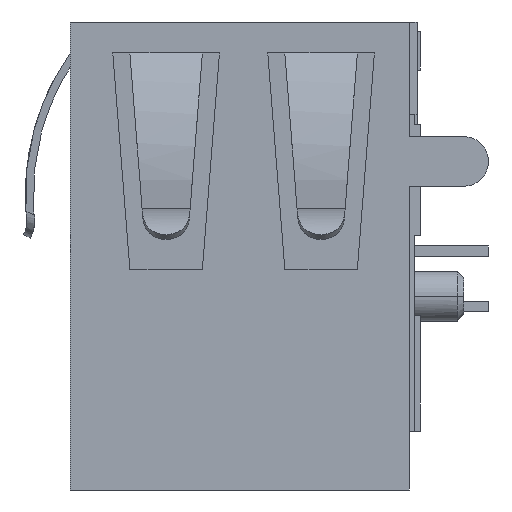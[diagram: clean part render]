
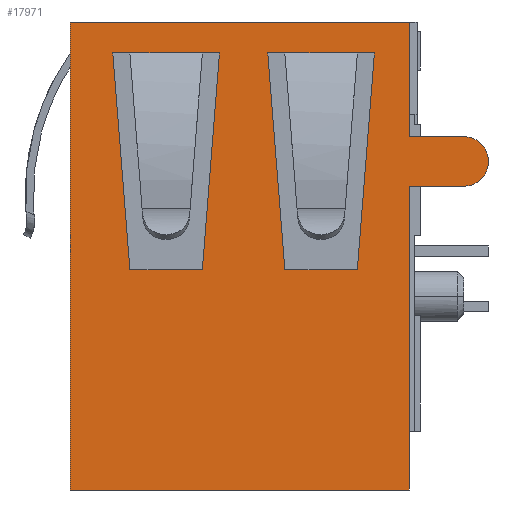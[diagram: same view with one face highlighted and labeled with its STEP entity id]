
A CAD part, left-side view. The second image highlights one B-rep face of the part: STEP entity #17971.
In plain terms, the highlighted planar face has unit normal (-1, 0, 0).
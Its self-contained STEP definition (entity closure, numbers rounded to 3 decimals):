
#13=DIRECTION('',(0.,1.,0.));
#14=VECTOR('',#13,10.95);
#15=CARTESIAN_POINT('',(-0.35,1.55,-0.3));
#16=LINE('',#15,#14);
#1487=DIRECTION('',(0.,0.,1.));
#1488=VECTOR('',#1487,3.7);
#1489=CARTESIAN_POINT('',(-0.35,1.55,-4.));
#1490=LINE('',#1489,#1488);
#1495=DIRECTION('',(0.,1.,0.));
#1496=VECTOR('',#1495,1.75);
#1497=CARTESIAN_POINT('',(-0.35,-0.2,-4.));
#1498=LINE('',#1497,#1496);
#1592=DIRECTION('',(0.,0.,1.));
#1593=VECTOR('',#1592,9.8);
#1594=CARTESIAN_POINT('',(-0.35,1.55,-15.4));
#1595=LINE('',#1594,#1593);
#1596=DIRECTION('',(0.,-1.,0.));
#1597=VECTOR('',#1596,1.75);
#1598=CARTESIAN_POINT('',(-0.35,1.55,-5.6));
#1599=LINE('',#1598,#1597);
#1600=CARTESIAN_POINT('',(-0.35,-0.2,-4.8));
#1601=DIRECTION('',(1.,0.,0.));
#1602=DIRECTION('',(0.,0.,1.));
#1603=AXIS2_PLACEMENT_3D('',#1600,#1601,#1602);
#1605=DIRECTION('',(0.,1.,0.));
#1606=VECTOR('',#1605,10.95);
#1607=CARTESIAN_POINT('',(-0.35,1.55,-15.4));
#1608=LINE('',#1607,#1606);
#1609=DIRECTION('',(0.,1.,0.));
#1610=VECTOR('',#1609,0.55);
#1611=CARTESIAN_POINT('',(-0.35,10.57,-1.3));
#1612=LINE('',#1611,#1610);
#1613=DIRECTION('',(0.,-0.078,-0.997));
#1614=VECTOR('',#1613,7.022);
#1615=CARTESIAN_POINT('',(-0.35,11.12,-1.3));
#1616=LINE('',#1615,#1614);
#1617=DIRECTION('',(0.,-0.078,0.997));
#1618=VECTOR('',#1617,7.022);
#1619=CARTESIAN_POINT('',(-0.35,8.231,-8.3));
#1620=LINE('',#1619,#1618);
#1621=DIRECTION('',(0.,1.,0.));
#1622=VECTOR('',#1621,0.55);
#1623=CARTESIAN_POINT('',(-0.35,7.68,-1.3));
#1624=LINE('',#1623,#1622);
#1625=DIRECTION('',(0.,1.,0.));
#1626=VECTOR('',#1625,0.55);
#1627=CARTESIAN_POINT('',(-0.35,5.57,-1.3));
#1628=LINE('',#1627,#1626);
#1629=DIRECTION('',(0.,-0.078,-0.997));
#1630=VECTOR('',#1629,7.022);
#1631=CARTESIAN_POINT('',(-0.35,6.12,-1.3));
#1632=LINE('',#1631,#1630);
#1633=DIRECTION('',(0.,-0.078,0.997));
#1634=VECTOR('',#1633,7.022);
#1635=CARTESIAN_POINT('',(-0.35,3.231,-8.3));
#1636=LINE('',#1635,#1634);
#1637=DIRECTION('',(0.,1.,0.));
#1638=VECTOR('',#1637,0.55);
#1639=CARTESIAN_POINT('',(-0.35,2.68,-1.3));
#1640=LINE('',#1639,#1638);
#11159=DIRECTION('',(0.,0.,-1.));
#11160=VECTOR('',#11159,15.1);
#11161=CARTESIAN_POINT('',(-0.35,12.5,-0.3));
#11162=LINE('',#11161,#11160);
#11833=DIRECTION('',(0.,-1.,
0.));
#11834=VECTOR('',#11833,2.34);
#11835=CARTESIAN_POINT('',(-0.35,10.57,-1.3));
#11836=LINE('',#11835,#11834);
#11998=DIRECTION('',(0.,1.,0.));
#11999=VECTOR('',#11998,2.338);
#12000=CARTESIAN_POINT('',(-0.35,8.231,-8.3));
#12001=LINE('',#12000,#11999);
#12042=DIRECTION('',(0.,-1.,
0.));
#12043=VECTOR('',#12042,2.34);
#12044=CARTESIAN_POINT('',(-0.35,5.57,-1.3));
#12045=LINE('',#12044,#12043);
#12207=DIRECTION('',(0.,1.,0.));
#12208=VECTOR('',#12207,2.338);
#12209=CARTESIAN_POINT('',(-0.35,3.231,-8.3));
#12210=LINE('',#12209,#12208);
#12369=CARTESIAN_POINT('',(-0.35,1.55,-0.3));
#12370=VERTEX_POINT('',#12369);
#12371=CARTESIAN_POINT('',(-0.35,12.5,-0.3));
#12372=VERTEX_POINT('',#12371);
#12675=CARTESIAN_POINT('',(-0.35,1.55,-5.6));
#12677=VERTEX_POINT('',#12675);
#12685=CARTESIAN_POINT('',(-0.35,1.55,-15.4));
#12686=VERTEX_POINT('',#12685);
#12687=CARTESIAN_POINT('',(-0.35,-0.2,-5.6));
#12688=VERTEX_POINT('',#12687);
#12691=CARTESIAN_POINT('',(-0.35,1.55,-4.));
#12692=VERTEX_POINT('',#12691);
#12693=CARTESIAN_POINT('',(-0.35,-0.2,-4.));
#12694=VERTEX_POINT('',#12693);
#12695=CARTESIAN_POINT('',(-0.35,12.5,-15.4));
#12696=VERTEX_POINT('',#12695);
#12697=CARTESIAN_POINT('',(-0.35,10.57,-1.3));
#12698=CARTESIAN_POINT('',(-0.35,8.23,-1.3));
#12699=VERTEX_POINT('',#12697);
#12700=VERTEX_POINT('',#12698);
#12701=CARTESIAN_POINT('',(-0.35,11.12,-1.3));
#12702=VERTEX_POINT('',#12701);
#12703=CARTESIAN_POINT('',(-0.35,10.569,-8.3));
#12704=VERTEX_POINT('',#12703);
#12705=CARTESIAN_POINT('',(-0.35,8.231,-8.3));
#12706=VERTEX_POINT('',#12705);
#12707=CARTESIAN_POINT('',(-0.35,7.68,-1.3));
#12708=VERTEX_POINT('',#12707);
#12709=CARTESIAN_POINT('',(-0.35,5.57,-1.3));
#12710=CARTESIAN_POINT('',(-0.35,3.23,-1.3));
#12711=VERTEX_POINT('',#12709);
#12712=VERTEX_POINT('',#12710);
#12713=CARTESIAN_POINT('',(-0.35,6.12,-1.3));
#12714=VERTEX_POINT('',#12713);
#12715=CARTESIAN_POINT('',(-0.35,5.569,-8.3));
#12716=VERTEX_POINT('',#12715);
#12717=CARTESIAN_POINT('',(-0.35,3.231,-8.3));
#12718=VERTEX_POINT('',#12717);
#12719=CARTESIAN_POINT('',(-0.35,2.68,-1.3));
#12720=VERTEX_POINT('',#12719);
#17925=CARTESIAN_POINT('',(-0.35,5.75,-7.85));
#17926=DIRECTION('',(1.,0.,0.));
#17927=DIRECTION('',(0.,-1.,0.));
#17928=AXIS2_PLACEMENT_3D('',#17925,#17926,#17927);
#17929=PLANE('',#17928);
#17930=ORIENTED_EDGE('',*,*,#17806,.F.);
#17931=ORIENTED_EDGE('',*,*,#17826,.F.);
#17933=ORIENTED_EDGE('',*,*,#17932,.T.);
#17934=ORIENTED_EDGE('',*,*,#17917,.F.);
#17935=ORIENTED_EDGE('',*,*,#17906,.F.);
#17937=ORIENTED_EDGE('',*,*,#17936,.T.);
#17939=ORIENTED_EDGE('',*,*,#17938,.F.);
#17940=ORIENTED_EDGE('',*,*,#16137,.F.);
#17941=EDGE_LOOP('',(#17930,#17931,#17933,#17934,#17935,#17937,#17939,#17940));
#17942=FACE_OUTER_BOUND('',#17941,.F.);
#17944=ORIENTED_EDGE('',*,*,#17943,.F.);
#17946=ORIENTED_EDGE('',*,*,#17945,.T.);
#17948=ORIENTED_EDGE('',*,*,#17947,.T.);
#17950=ORIENTED_EDGE('',*,*,#17949,.F.);
#17952=ORIENTED_EDGE('',*,*,#17951,.T.);
#17954=ORIENTED_EDGE('',*,*,#17953,.T.);
#17955=EDGE_LOOP('',(#17944,#17946,#17948,#17950,#17952,#17954));
#17956=FACE_BOUND('',#17955,.F.);
#17958=ORIENTED_EDGE('',*,*,#17957,.F.);
#17960=ORIENTED_EDGE('',*,*,#17959,.T.);
#17962=ORIENTED_EDGE('',*,*,#17961,.T.);
#17964=ORIENTED_EDGE('',*,*,#17963,.F.);
#17966=ORIENTED_EDGE('',*,*,#17965,.T.);
#17968=ORIENTED_EDGE('',*,*,#17967,.T.);
#17969=EDGE_LOOP('',(#17958,#17960,#17962,#17964,#17966,#17968));
#17970=FACE_BOUND('',#17969,.F.);
#17971=ADVANCED_FACE('',(#17942,#17956,#17970),#17929,.F.);
#1604=CIRCLE('',#1603,0.8);
#16137=EDGE_CURVE('',#12370,#12372,#16,.T.);
#17806=EDGE_CURVE('',#12692,#12370,#1490,.T.);
#17826=EDGE_CURVE('',#12694,#12692,#1498,.T.);
#17906=EDGE_CURVE('',#12686,#12677,#1595,.T.);
#17917=EDGE_CURVE('',#12677,#12688,#1599,.T.);
#17932=EDGE_CURVE('',#12694,#12688,#1604,.T.);
#17936=EDGE_CURVE('',#12686,#12696,#1608,.T.);
#17938=EDGE_CURVE('',#12372,#12696,#11162,.T.);
#17943=EDGE_CURVE('',#12699,#12700,#11836,.T.);
#17945=EDGE_CURVE('',#12699,#12702,#1612,.T.);
#17947=EDGE_CURVE('',#12702,#12704,#1616,.T.);
#17949=EDGE_CURVE('',#12706,#12704,#12001,.T.);
#17951=EDGE_CURVE('',#12706,#12708,#1620,.T.);
#17953=EDGE_CURVE('',#12708,#12700,#1624,.T.);
#17957=EDGE_CURVE('',#12711,#12712,#12045,.T.);
#17959=EDGE_CURVE('',#12711,#12714,#1628,.T.);
#17961=EDGE_CURVE('',#12714,#12716,#1632,.T.);
#17963=EDGE_CURVE('',#12718,#12716,#12210,.T.);
#17965=EDGE_CURVE('',#12718,#12720,#1636,.T.);
#17967=EDGE_CURVE('',#12720,#12712,#1640,.T.);
